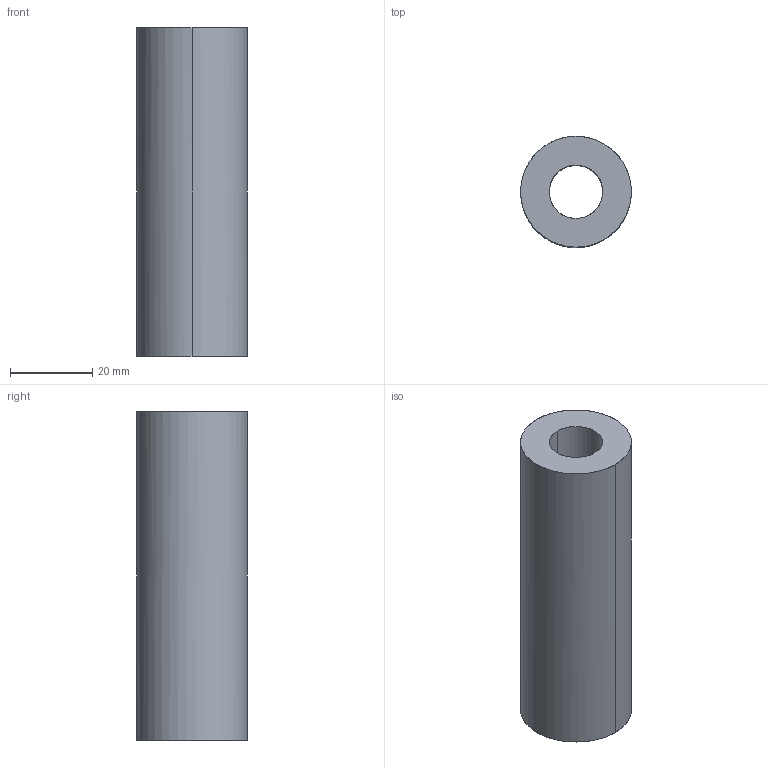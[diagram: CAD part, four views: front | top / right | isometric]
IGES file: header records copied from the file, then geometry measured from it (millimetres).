
Global section: file name: E:\UnigraphicsGraphicData\MISUMI_PRESS-PARTS\IGES\3d_swx27-80_00767_r00.igs; native system: NX V5.0; preprocessor: UGS NX IGES V5.0; author: MISUMI; date: 20110105.163301; units: millimetre
Bounding box: 27 x 27 x 80 mm (x, y, z)
Surface area: 10932.1 mm2 (no closed solid volume)
Topology: 0 solids, 0 shells, 6 faces, 64 edges, 64 vertices
Faces by surface type: bspline 6
